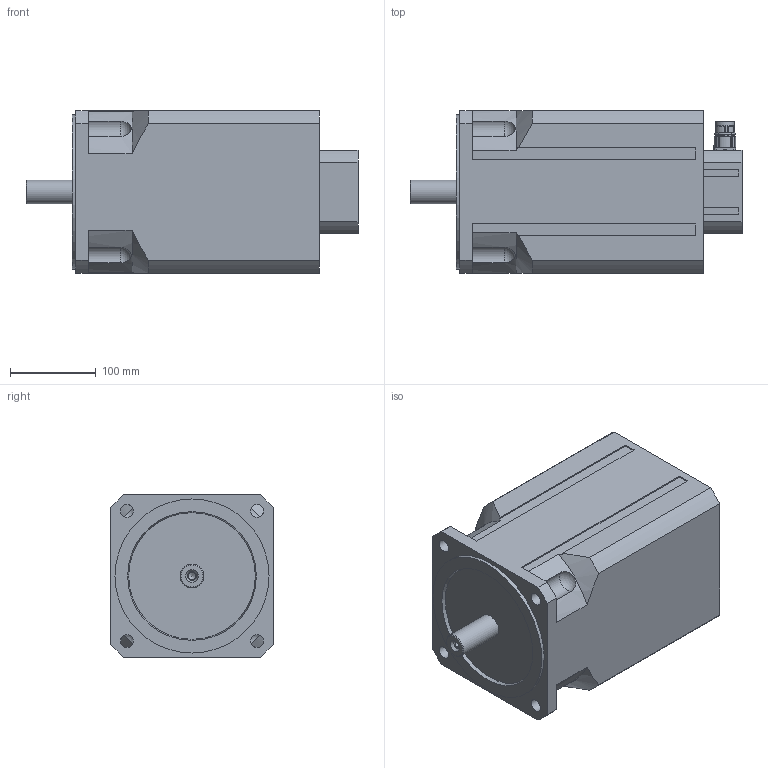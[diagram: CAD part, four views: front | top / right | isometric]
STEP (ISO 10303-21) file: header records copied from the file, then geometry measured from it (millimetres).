
FILE_DESCRIPTION(/* description */ (''),/* implementation_level */ '2;1');
FILE_NAME(/* name */ 'C:\PDF_output\N7028 00 B Z_6000.stp',/* time_stamp */ '2017-06-29T09:11:08+02:00',/* author */ ('oslejsek'),/* organization */ (''),/* preprocessor_version */ 'ST-DEVELOPER v16.13',/* originating_system */ 'Autodesk Inventor 2018',/* authorisation */ '');
FILE_SCHEMA (('AUTOMOTIVE_DESIGN { 1 0 10303 214 3 1 1 }'));
Length unit declared in the file: millimetre
Products named in the file (4): N7028 00 B Z_6000; N7028 00 B_6000; 127331; 127344
Assembly tree (3 placements, depth 2):
  N7028 00 B Z_6000
    N7028 00 B_6000
    127331
    127344
Bounding box: 388 x 190 x 190 mm (x, y, z)
Volume: 10380480.2 mm3; surface area: 323251.7 mm2
Topology: 3 solids, 3 shells, 1045 faces, 2730 edges, 1737 vertices
Faces by surface type: cylinder 351, plane 311, bspline 164, torus 109, cone 79, sphere 31
Full cylindrical faces by diameter (mm): 1 x16, 1.18 x12, 1.3 x4, 2 x4, 2.013 x8, 2.15 x4, 2.7 x8, 3 x4, 5.8 x1, 6.8 x1, 8.376 x1, 10.5 x1, 15 x4, 17.1 x1, 17.4 x1, 17.7 x1, 19.8 x1, 20 x2, 21.15 x2, 21.5 x1, 21.6 x1, 28 x1, 180 x1
Entity records: 39157 total; most frequent: CARTESIAN_POINT 13615, DIRECTION 5241, ORIENTED_EDGE 4974, EDGE_CURVE 2487, AXIS2_PLACEMENT_3D 2180, VERTEX_POINT 1646, EDGE_LOOP 1259, CIRCLE 1167
